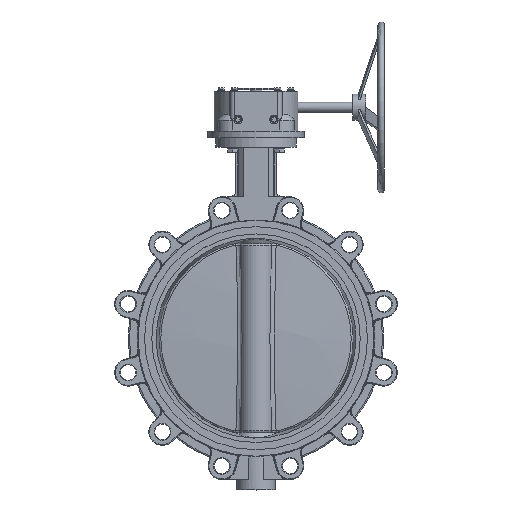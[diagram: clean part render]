
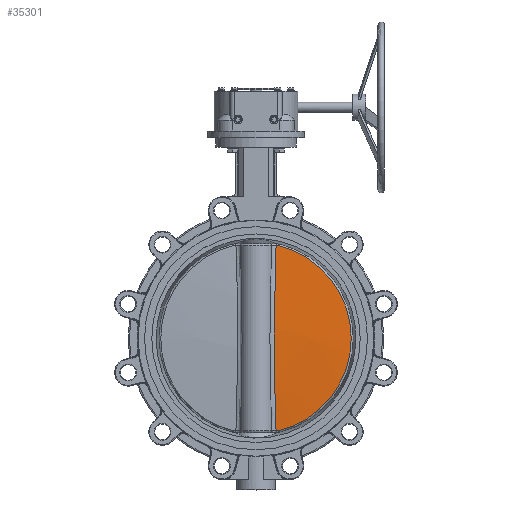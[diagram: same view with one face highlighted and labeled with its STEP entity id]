
A CAD part, top view. The second image highlights one B-rep face of the part: STEP entity #35301.
In plain terms, the highlighted spherical face has radius 1896.8 mm.
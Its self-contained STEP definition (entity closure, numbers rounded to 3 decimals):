
#400 = CIRCLE ( 'NONE', #67821, 147.522 ) ;
#958 = CARTESIAN_POINT ( 'NONE',  ( 21.177, 19.917, 8.961 ) ) ;
#1576 = VERTEX_POINT ( 'NONE', #47562 ) ;
#1647 = CARTESIAN_POINT ( 'NONE',  ( 22.607, 67.687, 6.223 ) ) ;
#5577 = CARTESIAN_POINT ( 'NONE',  ( 20.113, -39.877, 10.677 ) ) ;
#6008 = DIRECTION ( 'NONE',  ( 0., -1., 0. ) ) ;
#6332 = DIRECTION ( 'NONE',  ( 0., 0., 1. ) ) ;
#6592 = CARTESIAN_POINT ( 'NONE',  ( 22.607, -195.399, 6.223 ) ) ;
#8746 = CIRCLE ( 'NONE', #66050, 1891.363 ) ;
#11217 = CARTESIAN_POINT ( 'NONE',  ( 20.035, -75.8, 10.792 ) ) ;
#11570 = CARTESIAN_POINT ( 'NONE',  ( 21.505, 31.865, 8.39 ) ) ;
#16161 = CARTESIAN_POINT ( 'NONE',  ( 20.629, -123.677, 9.877 ) ) ;
#17609 = CARTESIAN_POINT ( 'NONE',  ( -8.061, -63.856, 5.255 ) ) ;
#20910 = VERTEX_POINT ( 'NONE', #36087 ) ;
#22563 = DIRECTION ( 'NONE',  ( 0., 0., -1. ) ) ;
#23166 = CARTESIAN_POINT ( 'NONE',  ( 21.176, -147.603, 8.963 ) ) ;
#23841 = VERTEX_POINT ( 'NONE', #30139 ) ;
#23878 = DIRECTION ( 'NONE',  ( 0., 0., 1. ) ) ;
#24267 = ORIENTED_EDGE ( 'NONE', *, *, #55713, .T. ) ;
#24863 = FACE_OUTER_BOUND ( 'NONE', #27187, .T. ) ;
#24923 = DIRECTION ( 'NONE',  ( 0., 1., 0. ) ) ;
#27187 = EDGE_LOOP ( 'NONE', ( #66251, #24267, #68324, #50368 ) ) ;
#27747 = CARTESIAN_POINT ( 'NONE',  ( 22.22, 55.75, 7.021 ) ) ;
#28446 = CARTESIAN_POINT ( 'NONE',  ( 22.995, 79.62, 5.311 ) ) ;
#29528 = CARTESIAN_POINT ( 'NONE',  ( -8.061, -207.333, -1885.797 ) ) ;
#30139 = CARTESIAN_POINT ( 'NONE',  ( 22.995, 79.62, 5.311 ) ) ;
#31170 = DIRECTION ( 'NONE',  ( -1., 0., 0. ) ) ;
#32849 = EDGE_CURVE ( 'NONE', #23841, #20910, #62450, .T. ) ;
#33047 = CARTESIAN_POINT ( 'NONE',  ( 22.995, -207.333, 5.311 ) ) ;
#33375 = CARTESIAN_POINT ( 'NONE',  ( 22.219, -183.458, 7.021 ) ) ;
#33729 = EDGE_CURVE ( 'NONE', #58394, #23841, #45243, .T. ) ;
#35301 = ADVANCED_FACE ( 'NONE', ( #24863 ), #41080, .T. ) ;
#36087 = CARTESIAN_POINT ( 'NONE',  ( 22.995, -207.333, 5.311 ) ) ;
#36257 = AXIS2_PLACEMENT_3D ( 'NONE', #38026, #6008, #22563 ) ;
#36477 = DIRECTION ( 'NONE',  ( 0., 1., 0. ) ) ;
#38026 = CARTESIAN_POINT ( 'NONE',  ( -8.061, 79.62, -1885.797 ) ) ;
#38654 = CARTESIAN_POINT ( 'NONE',  ( 20.113, -87.773, 10.678 ) ) ;
#41080 = SPHERICAL_SURFACE ( 'NONE', #49503, 1896.797 ) ;
#43935 = CARTESIAN_POINT ( 'NONE',  ( 20.63, -3.989, 9.876 ) ) ;
#45243 = CIRCLE ( 'NONE', #36257, 1891.363 ) ;
#47562 = CARTESIAN_POINT ( 'NONE',  ( 26.249, -207.333, 5.255 ) ) ;
#48911 = CARTESIAN_POINT ( 'NONE',  ( 20.409, -111.711, 10.22 ) ) ;
#48986 = DIRECTION ( 'NONE',  ( -1., 0., 0. ) ) ;
#49503 = AXIS2_PLACEMENT_3D ( 'NONE', #67758, #36477, #31170 ) ;
#50368 = ORIENTED_EDGE ( 'NONE', *, *, #33729, .T. ) ;
#53814 = EDGE_CURVE ( 'NONE', #1576, #58394, #400, .T. ) ;
#54225 = CARTESIAN_POINT ( 'NONE',  ( 26.249, 79.62, 5.255 ) ) ;
#55713 = EDGE_CURVE ( 'NONE', #20910, #1576, #8746, .T. ) ;
#58394 = VERTEX_POINT ( 'NONE', #54225 ) ;
#59438 = CARTESIAN_POINT ( 'NONE',  ( 20.036, -51.849, 10.792 ) ) ;
#60147 = CARTESIAN_POINT ( 'NONE',  ( 21.504, -159.56, 8.391 ) ) ;
#62450 = B_SPLINE_CURVE_WITH_KNOTS ( 'NONE', 3,
 ( #28446, #1647, #27747, #11570, #958, #43935, #65371, #5577, #59438, #11217, #38654, #48911, #16161, #23166, #60147, #33375, #6592, #33047 ),
 .UNSPECIFIED., .F., .F.,
 ( 4, 2, 2, 2, 2, 2, 2, 2, 4 ),
 ( 0.001, 0.037, 0.073, 0.108, 0.144, 0.18, 0.216, 0.252, 0.288 ),
 .UNSPECIFIED. ) ;
#65371 = CARTESIAN_POINT ( 'NONE',  ( 20.41, -15.948, 10.219 ) ) ;
#66050 = AXIS2_PLACEMENT_3D ( 'NONE', #29528, #24923, #23878 ) ;
#66251 = ORIENTED_EDGE ( 'NONE', *, *, #32849, .T. ) ;
#67758 = CARTESIAN_POINT ( 'NONE',  ( -8.061, -63.856, -1885.797 ) ) ;
#67821 = AXIS2_PLACEMENT_3D ( 'NONE', #17609, #6332, #48986 ) ;
#68324 = ORIENTED_EDGE ( 'NONE', *, *, #53814, .T. ) ;
